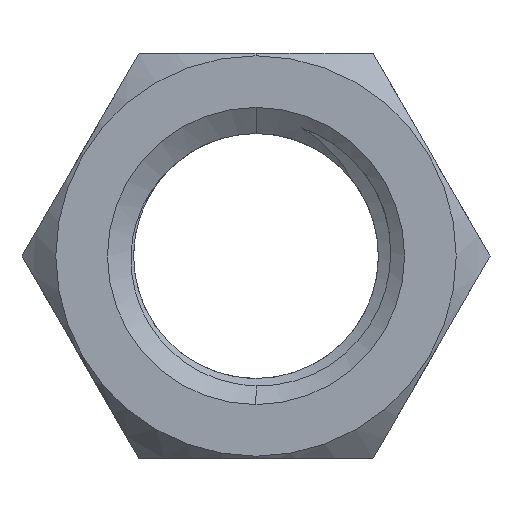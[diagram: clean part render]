
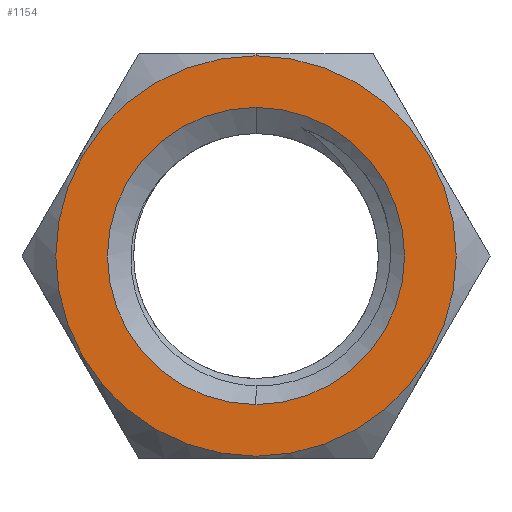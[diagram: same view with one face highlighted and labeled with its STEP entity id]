
A CAD part, front view. The second image highlights one B-rep face of the part: STEP entity #1154.
In plain terms, the highlighted planar face has unit normal (0, -1, 0).
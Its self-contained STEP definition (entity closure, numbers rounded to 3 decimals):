
#151 = EDGE_CURVE ( 'NONE', #549, #1683, #937, .T. ) ;
#161 = ORIENTED_EDGE ( 'NONE', *, *, #1877, .F. ) ;
#182 = DIRECTION ( 'NONE',  ( 0., 1., 0. ) ) ;
#349 = CARTESIAN_POINT ( 'NONE',  ( 0., -6.5, -8.8 ) ) ;
#350 = EDGE_LOOP ( 'NONE', ( #1775, #1250 ) ) ;
#433 = CARTESIAN_POINT ( 'NONE',  ( 0., -6.5, 0. ) ) ;
#549 = VERTEX_POINT ( 'NONE', #349 ) ;
#634 = CARTESIAN_POINT ( 'NONE',  ( 0., -6.5, 11.856 ) ) ;
#683 = FACE_OUTER_BOUND ( 'NONE', #350, .T. ) ;
#717 = EDGE_CURVE ( 'NONE', #2200, #1854, #2932, .T. ) ;
#937 = CIRCLE ( 'NONE', #2448, 8.8 ) ;
#1138 = AXIS2_PLACEMENT_3D ( 'NONE', #433, #2930, #2248 ) ;
#1154 = ADVANCED_FACE ( 'NONE', ( #1330, #683 ), #2060, .F. ) ;
#1182 = DIRECTION ( 'NONE',  ( 0., -1., 0. ) ) ;
#1236 = CARTESIAN_POINT ( 'NONE',  ( 0., -6.5, 8.8 ) ) ;
#1242 = EDGE_CURVE ( 'NONE', #1854, #2200, #1281, .T. ) ;
#1250 = ORIENTED_EDGE ( 'NONE', *, *, #1242, .T. ) ;
#1281 = CIRCLE ( 'NONE', #1138, 11.856 ) ;
#1305 = DIRECTION ( 'NONE',  ( 0., -1., 0. ) ) ;
#1330 = FACE_BOUND ( 'NONE', #1760, .T. ) ;
#1364 = DIRECTION ( 'NONE',  ( 0., 0., 1. ) ) ;
#1390 = CARTESIAN_POINT ( 'NONE',  ( 0., -6.5, 0. ) ) ;
#1445 = CARTESIAN_POINT ( 'NONE',  ( 0., -6.5, 0. ) ) ;
#1477 = DIRECTION ( 'NONE',  ( 0., 0., -1. ) ) ;
#1511 = CARTESIAN_POINT ( 'NONE',  ( 0., -6.5, 0. ) ) ;
#1624 = AXIS2_PLACEMENT_3D ( 'NONE', #1831, #1305, #2238 ) ;
#1683 = VERTEX_POINT ( 'NONE', #1236 ) ;
#1724 = AXIS2_PLACEMENT_3D ( 'NONE', #1445, #1182, #2777 ) ;
#1760 = EDGE_LOOP ( 'NONE', ( #161, #2280 ) ) ;
#1775 = ORIENTED_EDGE ( 'NONE', *, *, #717, .T. ) ;
#1831 = CARTESIAN_POINT ( 'NONE',  ( 0., -6.5, 0. ) ) ;
#1854 = VERTEX_POINT ( 'NONE', #1857 ) ;
#1857 = CARTESIAN_POINT ( 'NONE',  ( 0., -6.5, -11.856 ) ) ;
#1877 = EDGE_CURVE ( 'NONE', #1683, #549, #2639, .T. ) ;
#2060 = PLANE ( 'NONE',  #2886 ) ;
#2200 = VERTEX_POINT ( 'NONE', #634 ) ;
#2238 = DIRECTION ( 'NONE',  ( 0., 0., -1. ) ) ;
#2248 = DIRECTION ( 'NONE',  ( 0., 0., -1. ) ) ;
#2280 = ORIENTED_EDGE ( 'NONE', *, *, #151, .F. ) ;
#2392 = DIRECTION ( 'NONE',  ( 0., -1., 0. ) ) ;
#2448 = AXIS2_PLACEMENT_3D ( 'NONE', #1511, #2392, #1477 ) ;
#2639 = CIRCLE ( 'NONE', #1724, 8.8 ) ;
#2777 = DIRECTION ( 'NONE',  ( 0., 0., -1. ) ) ;
#2886 = AXIS2_PLACEMENT_3D ( 'NONE', #1390, #182, #1364 ) ;
#2930 = DIRECTION ( 'NONE',  ( 0., -1., 0. ) ) ;
#2932 = CIRCLE ( 'NONE', #1624, 11.856 ) ;
